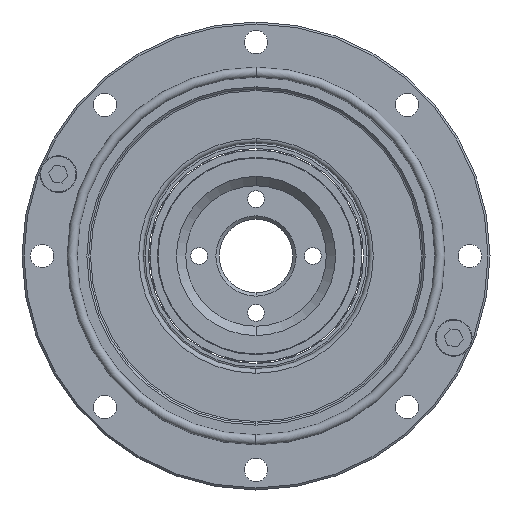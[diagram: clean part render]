
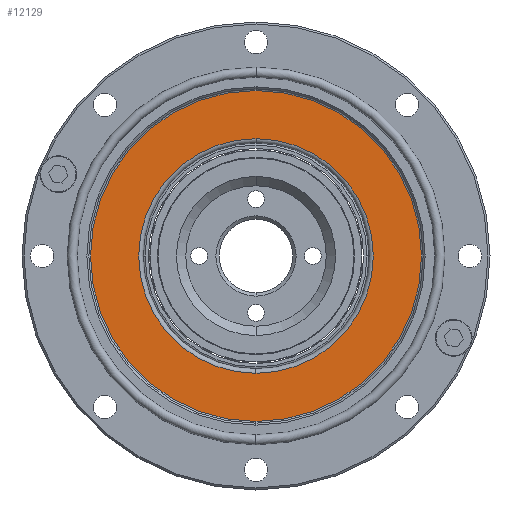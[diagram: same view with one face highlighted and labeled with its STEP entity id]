
A CAD part, left-side view. The second image highlights one B-rep face of the part: STEP entity #12129.
In plain terms, the highlighted planar face has unit normal (-1, 0, 0).
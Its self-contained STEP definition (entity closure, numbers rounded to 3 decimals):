
#9 = CARTESIAN_POINT ( 'NONE',  ( -0.25, 0., 0. ) ) ;
#368 = EDGE_CURVE ( 'NONE', #8326, #10046, #8757, .T. ) ;
#426 = EDGE_CURVE ( 'NONE', #8374, #2404, #8104, .T. ) ;
#774 = ORIENTED_EDGE ( 'NONE', *, *, #426, .T. ) ;
#965 = CIRCLE ( 'NONE', #1811, 17.548 ) ;
#1714 = AXIS2_PLACEMENT_3D ( 'NONE', #9, #4593, #8350 ) ;
#1776 = CARTESIAN_POINT ( 'NONE',  ( -0.25, 0., 0. ) ) ;
#1811 = AXIS2_PLACEMENT_3D ( 'NONE', #12424, #6173, #13508 ) ;
#2351 = AXIS2_PLACEMENT_3D ( 'NONE', #9341, #11462, #5224 ) ;
#2390 = CARTESIAN_POINT ( 'NONE',  ( -0.25, 0., -24.75 ) ) ;
#2404 = VERTEX_POINT ( 'NONE', #2390 ) ;
#2849 = DIRECTION ( 'NONE',  ( 0., 0., 1. ) ) ;
#3118 = FACE_OUTER_BOUND ( 'NONE', #9371, .T. ) ;
#3158 = CARTESIAN_POINT ( 'NONE',  ( -0.25, 0., 24.75 ) ) ;
#3267 = AXIS2_PLACEMENT_3D ( 'NONE', #1776, #9101, #2849 ) ;
#4124 = CARTESIAN_POINT ( 'NONE',  ( -0.25, 0., 0. ) ) ;
#4513 = ORIENTED_EDGE ( 'NONE', *, *, #368, .F. ) ;
#4593 = DIRECTION ( 'NONE',  ( -1., 0., 0. ) ) ;
#4944 = EDGE_CURVE ( 'NONE', #2404, #8374, #10329, .T. ) ;
#5194 = DIRECTION ( 'NONE',  ( 0., 0., 1. ) ) ;
#5224 = DIRECTION ( 'NONE',  ( 0., 0., 1. ) ) ;
#6173 = DIRECTION ( 'NONE',  ( -1., 0., 0. ) ) ;
#6855 = CARTESIAN_POINT ( 'NONE',  ( -0.25, 0., -17.548 ) ) ;
#8104 = CIRCLE ( 'NONE', #1714, 24.75 ) ;
#8326 = VERTEX_POINT ( 'NONE', #12404 ) ;
#8350 = DIRECTION ( 'NONE',  ( 0., 0., 1. ) ) ;
#8352 = FACE_BOUND ( 'NONE', #8784, .T. ) ;
#8374 = VERTEX_POINT ( 'NONE', #3158 ) ;
#8449 = ORIENTED_EDGE ( 'NONE', *, *, #12546, .F. ) ;
#8757 = CIRCLE ( 'NONE', #11803, 17.548 ) ;
#8784 = EDGE_LOOP ( 'NONE', ( #4513, #8449 ) ) ;
#9101 = DIRECTION ( 'NONE',  ( -1., 0., 0. ) ) ;
#9341 = CARTESIAN_POINT ( 'NONE',  ( -0.25, 0., 0. ) ) ;
#9371 = EDGE_LOOP ( 'NONE', ( #774, #11215 ) ) ;
#10046 = VERTEX_POINT ( 'NONE', #6855 ) ;
#10329 = CIRCLE ( 'NONE', #3267, 24.75 ) ;
#11215 = ORIENTED_EDGE ( 'NONE', *, *, #4944, .T. ) ;
#11423 = DIRECTION ( 'NONE',  ( -1., 0., 0. ) ) ;
#11462 = DIRECTION ( 'NONE',  ( -1., 0., 0. ) ) ;
#11803 = AXIS2_PLACEMENT_3D ( 'NONE', #4124, #11423, #5194 ) ;
#12129 = ADVANCED_FACE ( 'NONE', ( #3118, #8352 ), #12483, .T. ) ;
#12404 = CARTESIAN_POINT ( 'NONE',  ( -0.25, 0., 17.548 ) ) ;
#12424 = CARTESIAN_POINT ( 'NONE',  ( -0.25, 0., 0. ) ) ;
#12483 = PLANE ( 'NONE',  #2351 ) ;
#12546 = EDGE_CURVE ( 'NONE', #10046, #8326, #965, .T. ) ;
#13508 = DIRECTION ( 'NONE',  ( 0., 0., 1. ) ) ;
